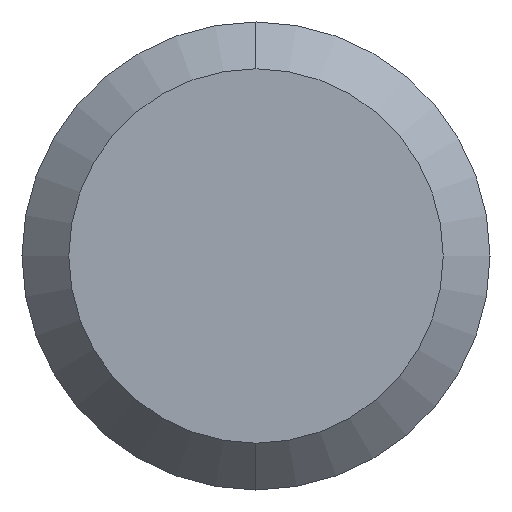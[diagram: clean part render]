
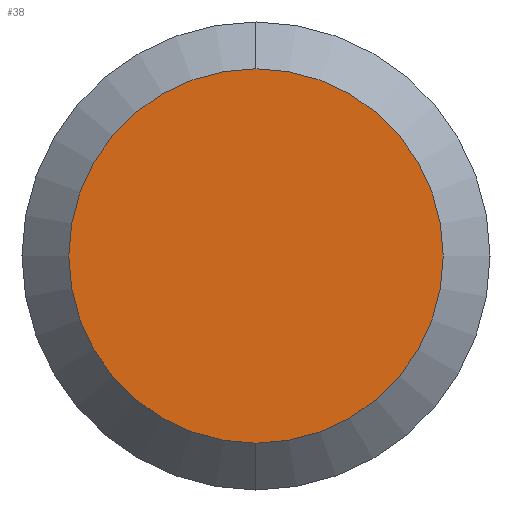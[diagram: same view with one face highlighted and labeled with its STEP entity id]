
A CAD part, left-side view. The second image highlights one B-rep face of the part: STEP entity #38.
In plain terms, the highlighted planar face has unit normal (-1, 0, 0).
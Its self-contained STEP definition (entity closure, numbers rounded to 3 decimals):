
#6 = DIRECTION ( 'NONE',  ( 0., 0., -1. ) ) ;
#29 = DIRECTION ( 'NONE',  ( 0., 0., 1. ) ) ;
#35 = CIRCLE ( 'NONE', #57, 2.4 ) ;
#38 = ADVANCED_FACE ( 'NONE', ( #109 ), #203, .F. ) ;
#57 = AXIS2_PLACEMENT_3D ( 'NONE', #267, #263, #29 ) ;
#70 = DIRECTION ( 'NONE',  ( 1., 0., 0. ) ) ;
#109 = FACE_OUTER_BOUND ( 'NONE', #136, .T. ) ;
#116 = DIRECTION ( 'NONE',  ( 0., 0., 1. ) ) ;
#136 = EDGE_LOOP ( 'NONE', ( #367, #344 ) ) ;
#140 = CIRCLE ( 'NONE', #378, 2.4 ) ;
#203 = PLANE ( 'NONE',  #264 ) ;
#233 = VERTEX_POINT ( 'NONE', #432 ) ;
#251 = DIRECTION ( 'NONE',  ( -1., 0., 0. ) ) ;
#257 = CARTESIAN_POINT ( 'NONE',  ( 0., 0., 0. ) ) ;
#263 = DIRECTION ( 'NONE',  ( -1., 0., 0. ) ) ;
#264 = AXIS2_PLACEMENT_3D ( 'NONE', #307, #70, #6 ) ;
#267 = CARTESIAN_POINT ( 'NONE',  ( 0., 0., 0. ) ) ;
#287 = CARTESIAN_POINT ( 'NONE',  ( 0., 0., 2.4 ) ) ;
#301 = VERTEX_POINT ( 'NONE', #287 ) ;
#307 = CARTESIAN_POINT ( 'NONE',  ( 0., 2.4, 0. ) ) ;
#333 = EDGE_CURVE ( 'NONE', #301, #233, #140, .T. ) ;
#344 = ORIENTED_EDGE ( 'NONE', *, *, #333, .T. ) ;
#367 = ORIENTED_EDGE ( 'NONE', *, *, #421, .T. ) ;
#378 = AXIS2_PLACEMENT_3D ( 'NONE', #257, #251, #116 ) ;
#421 = EDGE_CURVE ( 'NONE', #233, #301, #35, .T. ) ;
#432 = CARTESIAN_POINT ( 'NONE',  ( 0., 0., -2.4 ) ) ;
